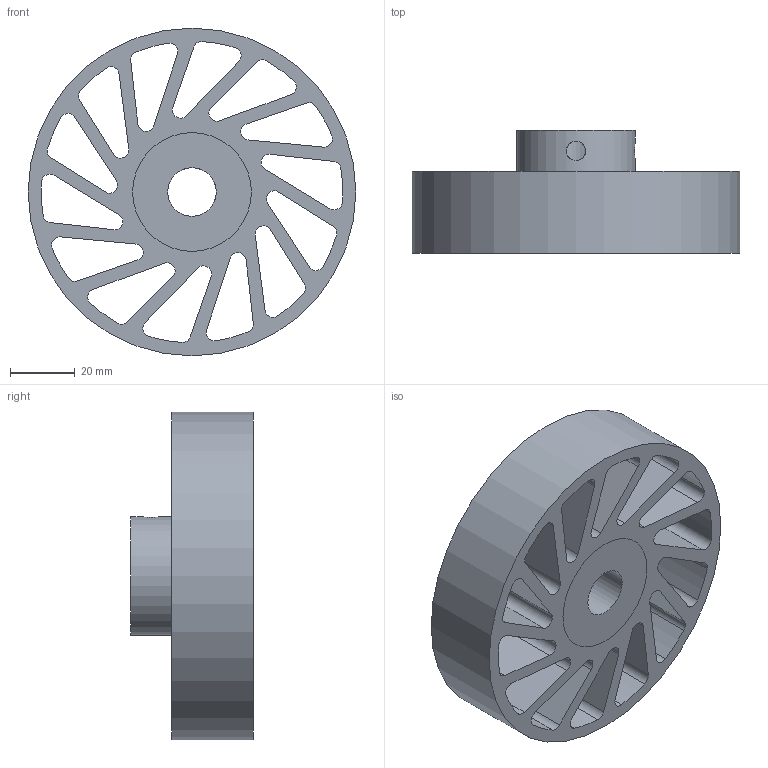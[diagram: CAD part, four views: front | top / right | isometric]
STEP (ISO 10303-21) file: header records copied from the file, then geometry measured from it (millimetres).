
FILE_DESCRIPTION(/* description */ (''),/* implementation_level */ '2;1');
FILE_NAME(/* name */ 'NCWM-360-XXX-YYY.stp',/* time_stamp */ '2023-02-02T16:24:10-06:00',/* author */ ('AG'),/* organization */ ('Meridian Laboratory'),/* preprocessor_version */ 'ST-DEVELOPER v18.1',/* originating_system */ 'Autodesk Inventor 2022',/* authorisation */ '');
FILE_SCHEMA (('AUTOMOTIVE_DESIGN { 1 0 10303 214 3 1 1 }'));
Length unit declared in the file: millimetre
Products named in the file (1): NCWM-340
Bounding box: 101.6 x 38.1 x 101.6 mm (x, y, z)
Volume: 121620 mm3; surface area: 50894.8 mm2
Topology: 2 solids, 2 shells, 94 faces, 276 edges, 186 vertices
Faces by surface type: cylinder 62, plane 32
Full cylindrical faces by diameter (mm): 6 x2, 15.025 x1, 36.83 x2, 101.6 x1
Entity records: 3528 total; most frequent: CARTESIAN_POINT 697, DIRECTION 576, ORIENTED_EDGE 552, EDGE_CURVE 276, AXIS2_PLACEMENT_3D 215, VERTEX_POINT 186, LINE 146, VECTOR 146
